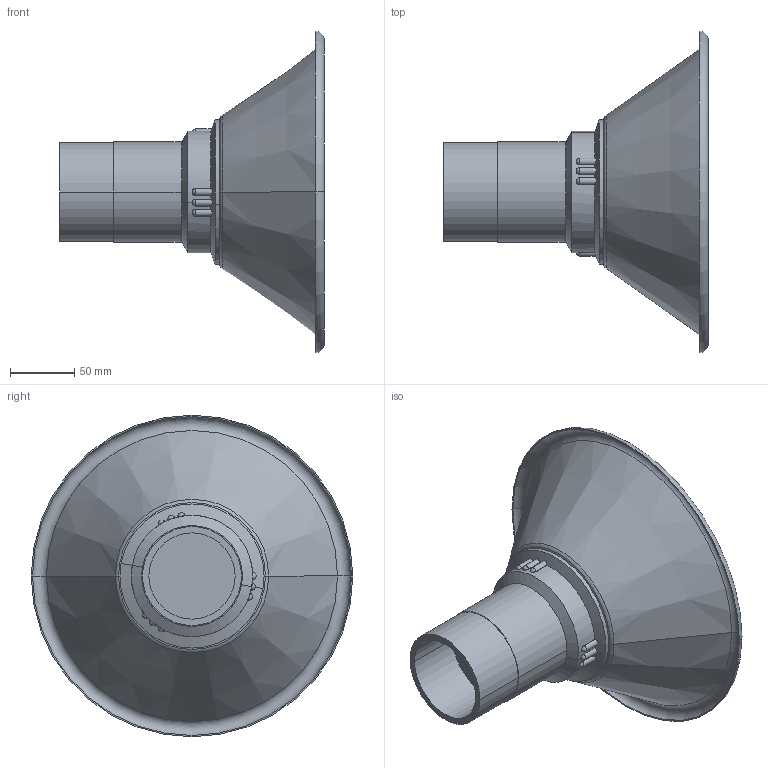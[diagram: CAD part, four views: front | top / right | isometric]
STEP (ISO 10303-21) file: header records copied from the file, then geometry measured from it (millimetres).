
FILE_DESCRIPTION((''),'2;1');
FILE_NAME('MEM250-75','2015-12-02T',('Tomas Bellgran'),(''),'PRO/ENGINEER BY PARAMETRIC TECHNOLOGY CORPORATION, 2013410','PRO/ENGINEER BY PARAMETRIC TECHNOLOGY CORPORATION, 2013410','');
FILE_SCHEMA(('AUTOMOTIVE_DESIGN { 1 0 10303 214 1 1 1 1 }'));
Length unit declared in the file: millimetre
Products named in the file (6): 116336_AF0; 117006_AF0; 117012; 116921; 117011; MEM250-75
Assembly tree (5 placements, depth 3):
  MEM250-75
    117012
      116336_AF0
      117006_AF0
    116921
    117011
Bounding box: 205.59 x 250 x 250 mm (x, y, z)
Volume: 553865.2 mm3; surface area: 230630.7 mm2
Topology: 4 solids, 4 shells, 118 faces, 261 edges, 151 vertices
Faces by surface type: cylinder 31, plane 26, cone 22, bspline 18, sphere 13, torus 8
Entity records: 6531 total; most frequent: CARTESIAN_POINT 2378, DIRECTION 540, ORIENTED_EDGE 522, EDGE_CURVE 261, PROPERTY_DEFINITION 237, REPRESENTATION 233, PROPERTY_DEFINITION_REPRESENTATION 233, AXIS2_PLACEMENT_3D 230
